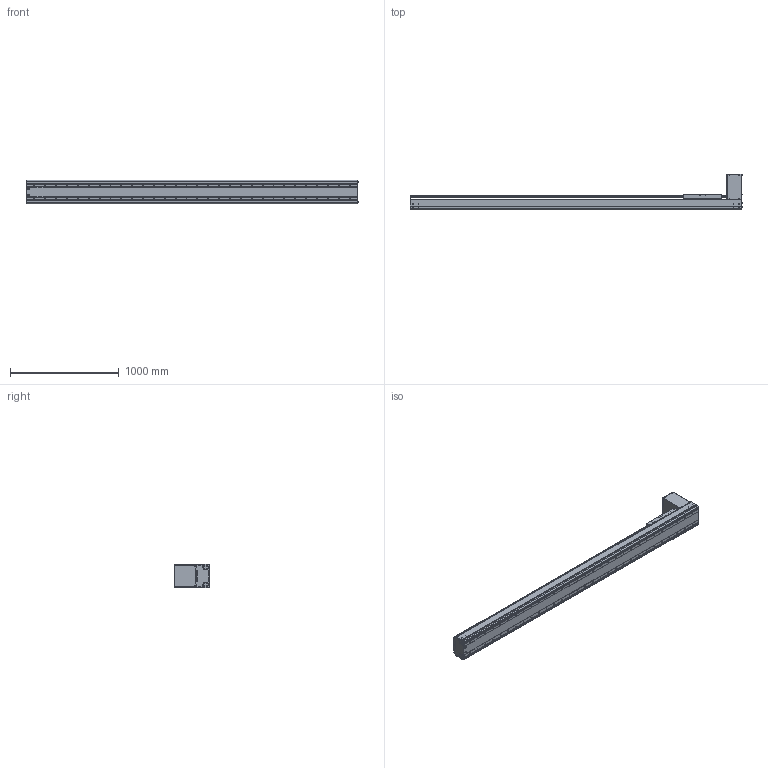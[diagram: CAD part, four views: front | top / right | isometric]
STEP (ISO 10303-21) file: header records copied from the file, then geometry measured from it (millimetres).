
FILE_DESCRIPTION((''),'2;1');
FILE_NAME('BE60J-BT-L19N-Q5_IGS_PRT','2017-06-18T',(' '),(''),'PRO/ENGINEER BY PARAMETRIC TECHNOLOGY CORPORATION, 2015030','PRO/ENGINEER BY PARAMETRIC TECHNOLOGY CORPORATION, 2015030','');
FILE_SCHEMA(('CONFIG_CONTROL_DESIGN'));
Products named in the file (1): BE60J-BT-L19N-Q5_IGS_PRT
Bounding box: 3054.4 x 327.5 x 214 mm (x, y, z)
Volume: 23554217.9 mm3; surface area: 6524076.2 mm2
Topology: 2 solids, 365 shells, 2562 faces, 7268 edges, 4886 vertices
Faces by surface type: cylinder 1292, plane 884, cone 290, sphere 48, torus 48
Entity records: 85979 total; most frequent: CARTESIAN_POINT 20044, DIRECTION 13735, ORIENTED_EDGE 12880, EDGE_CURVE 7060, AXIS2_PLACEMENT_3D 5257, VERTEX_POINT 4872, VECTOR 3221, LINE 3221
